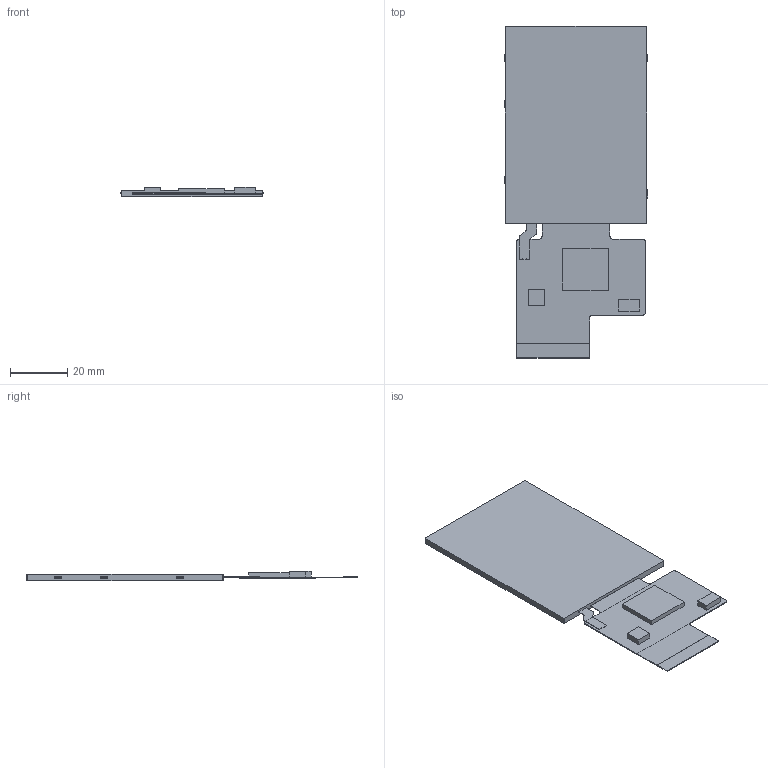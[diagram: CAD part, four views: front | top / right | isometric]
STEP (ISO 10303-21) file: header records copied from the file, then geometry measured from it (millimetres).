
FILE_DESCRIPTION((''),'2;1');
FILE_NAME('3D-DMG24320F028_01WN-211203-2','2021-12-03T',('Administrator'),(''),'PRO/ENGINEER BY PARAMETRIC TECHNOLOGY CORPORATION, 2008380','PRO/ENGINEER BY PARAMETRIC TECHNOLOGY CORPORATION, 2008380','');
FILE_SCHEMA(('CONFIG_CONTROL_DESIGN'));
Length unit declared in the file: millimetre
Products named in the file (1): 3D-DMG24320F028_01WN-211203-2
Bounding box: 50 x 115.95 x 3.2 mm (x, y, z)
Volume: 8341.3 mm3; surface area: 11027.7 mm2
Topology: 1 solids, 1 shells, 104 faces, 275 edges, 184 vertices
Faces by surface type: plane 86, cylinder 18
Entity records: 3235 total; most frequent: CARTESIAN_POINT 568, ORIENTED_EDGE 542, DIRECTION 519, EDGE_CURVE 271, VECTOR 237, LINE 237, VERTEX_POINT 180, AXIS2_PLACEMENT_3D 141
